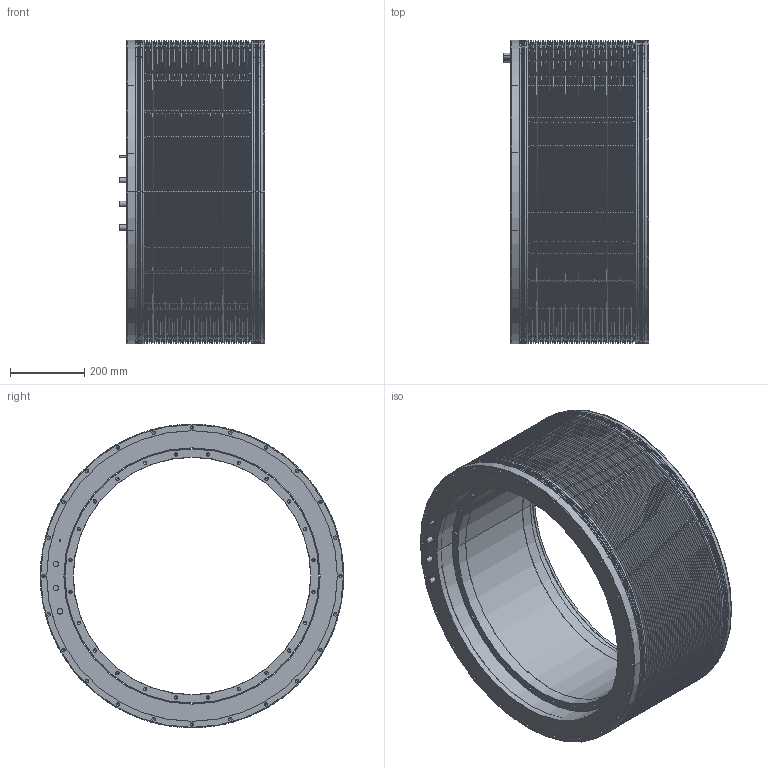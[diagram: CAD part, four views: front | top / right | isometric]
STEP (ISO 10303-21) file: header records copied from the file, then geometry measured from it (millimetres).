
FILE_DESCRIPTION((''),'2;1');
FILE_NAME('TK795-260','2017-10-26T',('stefanos'),(''),'CREO PARAMETRIC BY PTC INC, 2015480','CREO PARAMETRIC BY PTC INC, 2015480','');
FILE_SCHEMA(('CONFIG_CONTROL_DESIGN'));
Length unit declared in the file: millimetre
Products named in the file (1): TK795-260
Bounding box: 391 x 817 x 817 mm (x, y, z)
Volume: 66873605.5 mm3; surface area: 7305674.4 mm2
Topology: 9 solids, 9 shells, 715 faces, 1574 edges, 824 vertices
Faces by surface type: cone 340, cylinder 306, plane 37, torus 16, revolution 16
Entity records: 19866 total; most frequent: CARTESIAN_POINT 4489, DIRECTION 3564, ORIENTED_EDGE 2860, AXIS2_PLACEMENT_3D 1451, EDGE_CURVE 1430, VERTEX_POINT 824, EDGE_LOOP 824, CIRCLE 752
